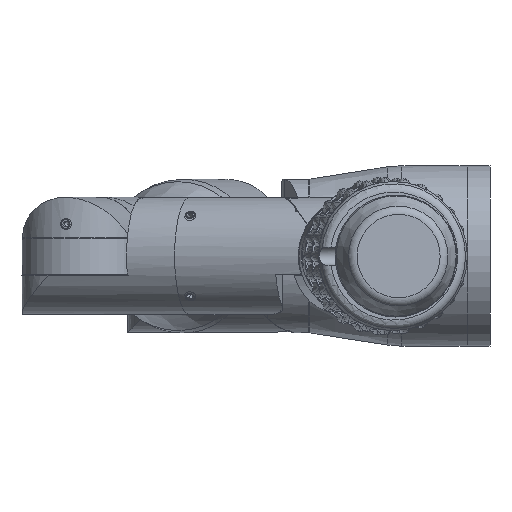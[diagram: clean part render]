
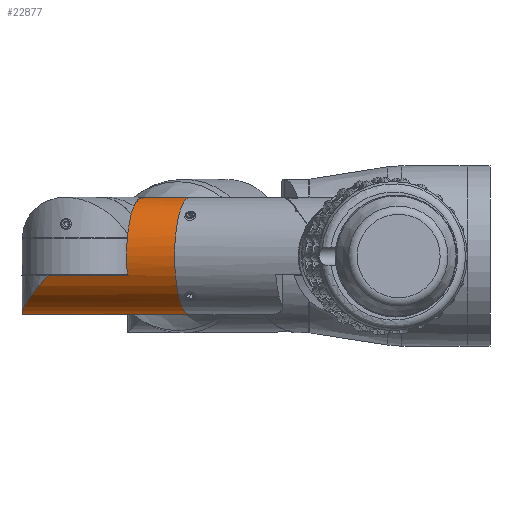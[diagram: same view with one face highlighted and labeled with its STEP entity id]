
A CAD part, left-side view. The second image highlights one B-rep face of the part: STEP entity #22877.
In plain terms, the highlighted cylindrical face has radius 13 mm (diameter 26 mm), a full revolution.
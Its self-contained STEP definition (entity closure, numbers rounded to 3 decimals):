
#419=ELLIPSE('',#24782,18.385,13.);
#420=ELLIPSE('',#24784,18.385,13.);
#421=ELLIPSE('',#24786,20.224,13.);
#422=ELLIPSE('',#24789,15.011,13.);
#615=B_SPLINE_CURVE_WITH_KNOTS('',3,(#35310,#35311,#35312,#35313,#35314,
#35315,#35316,#35317,#35318,#35319,#35320,#35321,#35322,#35323),
 .UNSPECIFIED.,.F.,.F.,(4,2,2,2,2,2,4),(1.188,1.335,
1.47,1.604,1.739,1.873,1.876),
 .UNSPECIFIED.);
#616=B_SPLINE_CURVE_WITH_KNOTS('',3,(#35330,#35331,#35332,#35333,#35334,
#35335),.UNSPECIFIED.,.F.,.F.,(4,2,4),(1.886,2.039,
2.091),.UNSPECIFIED.);
#2358=FACE_OUTER_BOUND('',#3717,.T.);
#3717=EDGE_LOOP('',(#16586,#16587,#16588,#16589,#16590,#16591,#16592,#16593,
#16594,#16595,#16596,#16597,#16598));
#5268=LINE('',#35279,#6787);
#5272=LINE('',#35293,#6791);
#5280=LINE('',#35351,#6799);
#6787=VECTOR('',#28420,10.);
#6791=VECTOR('',#28430,10.);
#6799=VECTOR('',#28480,13.);
#8175=CIRCLE('',#24677,13.);
#8221=CIRCLE('',#24792,13.);
#8222=CIRCLE('',#24793,13.);
#9548=VERTEX_POINT('',#35039);
#9612=VERTEX_POINT('',#35277);
#9613=VERTEX_POINT('',#35278);
#9619=VERTEX_POINT('',#35290);
#9620=VERTEX_POINT('',#35292);
#9622=VERTEX_POINT('',#35300);
#9623=VERTEX_POINT('',#35304);
#9624=VERTEX_POINT('',#35308);
#9625=VERTEX_POINT('',#35325);
#9626=VERTEX_POINT('',#35329);
#9627=VERTEX_POINT('',#35338);
#12126=EDGE_CURVE('',#9548,#9548,#8175,.T.);
#12242=EDGE_CURVE('',#9612,#9613,#5268,.T.);
#12249=EDGE_CURVE('',#9620,#9619,#5272,.T.);
#12252=EDGE_CURVE('',#9613,#9620,#419,.T.);
#12254=EDGE_CURVE('',#9619,#9622,#420,.T.);
#12256=EDGE_CURVE('',#9622,#9623,#421,.T.);
#12258=EDGE_CURVE('',#9624,#9623,#615,.T.);
#12260=EDGE_CURVE('',#9624,#9625,#422,.T.);
#12261=EDGE_CURVE('',#9626,#9625,#616,.T.);
#12263=EDGE_CURVE('',#9627,#9612,#8221,.T.);
#12264=EDGE_CURVE('',#9626,#9627,#8222,.T.);
#12269=EDGE_CURVE('',#9548,#9627,#5280,.T.);
#16586=ORIENTED_EDGE('',*,*,#12126,.F.);
#16587=ORIENTED_EDGE('',*,*,#12269,.T.);
#16588=ORIENTED_EDGE('',*,*,#12263,.T.);
#16589=ORIENTED_EDGE('',*,*,#12242,.T.);
#16590=ORIENTED_EDGE('',*,*,#12252,.T.);
#16591=ORIENTED_EDGE('',*,*,#12249,.T.);
#16592=ORIENTED_EDGE('',*,*,#12254,.T.);
#16593=ORIENTED_EDGE('',*,*,#12256,.T.);
#16594=ORIENTED_EDGE('',*,*,#12258,.F.);
#16595=ORIENTED_EDGE('',*,*,#12260,.T.);
#16596=ORIENTED_EDGE('',*,*,#12261,.F.);
#16597=ORIENTED_EDGE('',*,*,#12264,.T.);
#16598=ORIENTED_EDGE('',*,*,#12269,.F.);
#22088=CYLINDRICAL_SURFACE('',#24799,13.);
#22877=ADVANCED_FACE('',(#2358),#22088,.T.);
#24677=AXIS2_PLACEMENT_3D('',#35040,#28147,#28148);
#24782=AXIS2_PLACEMENT_3D('',#35298,#28437,#28438);
#24784=AXIS2_PLACEMENT_3D('',#35302,#28442,#28443);
#24786=AXIS2_PLACEMENT_3D('',#35306,#28447,#28448);
#24789=AXIS2_PLACEMENT_3D('',#35327,#28455,#28456);
#24792=AXIS2_PLACEMENT_3D('',#35339,#28462,#28463);
#24793=AXIS2_PLACEMENT_3D('',#35340,#28464,#28465);
#24799=AXIS2_PLACEMENT_3D('',#35350,#28478,#28479);
#28147=DIRECTION('center_axis',(0.,1.,0.));
#28148=DIRECTION('ref_axis',(1.,0.,0.));
#28420=DIRECTION('',(0.,-1.,0.));
#28430=DIRECTION('',(0.,1.,0.));
#28437=DIRECTION('center_axis',(0.,0.707,0.707));
#28438=DIRECTION('ref_axis',(0.,0.707,-0.707));
#28442=DIRECTION('center_axis',(0.,-0.707,0.707));
#28443=DIRECTION('ref_axis',(0.,-0.707,-0.707));
#28447=DIRECTION('center_axis',(-0.766,-0.643,0.));
#28448=DIRECTION('ref_axis',(0.643,-0.766,0.));
#28455=DIRECTION('center_axis',(-0.5,0.866,0.));
#28456=DIRECTION('ref_axis',(0.866,0.5,0.));
#28462=DIRECTION('center_axis',(0.,1.,0.));
#28463=DIRECTION('ref_axis',(1.,0.,0.));
#28464=DIRECTION('center_axis',(0.,1.,0.));
#28465=DIRECTION('ref_axis',(1.,0.,0.));
#28478=DIRECTION('center_axis',(0.,1.,0.));
#28479=DIRECTION('ref_axis',(1.,0.,0.));
#28480=DIRECTION('',(0.,-1.,0.));
#35039=CARTESIAN_POINT('',(-13.,38.,0.));
#35040=CARTESIAN_POINT('Origin',(0.,38.,0.));
#35277=CARTESIAN_POINT('',(-12.303,27.,4.2));
#35278=CARTESIAN_POINT('',(-12.303,8.8,4.2));
#35279=CARTESIAN_POINT('',(-12.303,0.,4.2));
#35290=CARTESIAN_POINT('',(12.303,17.2,4.2));
#35292=CARTESIAN_POINT('',(12.303,8.8,4.2));
#35293=CARTESIAN_POINT('',(12.303,0.,4.2));
#35298=CARTESIAN_POINT('Origin',(0.,13.,0.));
#35300=CARTESIAN_POINT('',(9.959,21.356,8.356));
#35302=CARTESIAN_POINT('Origin',(0.,13.,0.));
#35304=CARTESIAN_POINT('',(5.685,26.45,11.691));
#35306=CARTESIAN_POINT('Origin',(0.,33.224,0.));
#35308=CARTESIAN_POINT('',(6.749,32.485,11.111));
#35310=CARTESIAN_POINT('Ctrl Pts',(6.749,32.485,11.111));
#35311=CARTESIAN_POINT('Ctrl Pts',(6.347,32.253,11.355));
#35312=CARTESIAN_POINT('Ctrl Pts',(5.971,31.937,11.552));
#35313=CARTESIAN_POINT('Ctrl Pts',(5.397,31.245,11.831));
#35314=CARTESIAN_POINT('Ctrl Pts',(5.153,30.837,11.936));
#35315=CARTESIAN_POINT('Ctrl Pts',(4.829,29.948,12.071));
#35316=CARTESIAN_POINT('Ctrl Pts',(4.749,29.469,12.102));
#35317=CARTESIAN_POINT('Ctrl Pts',(4.749,28.573,12.102));
#35318=CARTESIAN_POINT('Ctrl Pts',(4.829,28.093,12.071));
#35319=CARTESIAN_POINT('Ctrl Pts',(5.153,27.205,11.936));
#35320=CARTESIAN_POINT('Ctrl Pts',(5.397,26.796,11.831));
#35321=CARTESIAN_POINT('Ctrl Pts',(5.675,26.461,11.696));
#35322=CARTESIAN_POINT('Ctrl Pts',(5.68,26.455,11.694));
#35323=CARTESIAN_POINT('Ctrl Pts',(5.685,26.45,11.691));
#35325=CARTESIAN_POINT('',(-1.823,27.536,-12.872));
#35327=CARTESIAN_POINT('Origin',(0.,28.588,0.));
#35329=CARTESIAN_POINT('',(-3.823,27.,-12.425));
#35330=CARTESIAN_POINT('Ctrl Pts',(-3.823,27.,-12.425));
#35331=CARTESIAN_POINT('Ctrl Pts',(-3.334,27.,-12.575));
#35332=CARTESIAN_POINT('Ctrl Pts',(-2.803,27.096,-12.704));
#35333=CARTESIAN_POINT('Ctrl Pts',(-2.142,27.366,-12.823));
#35334=CARTESIAN_POINT('Ctrl Pts',(-1.979,27.446,-12.849));
#35335=CARTESIAN_POINT('Ctrl Pts',(-1.823,27.536,-12.872));
#35338=CARTESIAN_POINT('',(-13.,27.,0.));
#35339=CARTESIAN_POINT('Origin',(0.,27.,0.));
#35340=CARTESIAN_POINT('Origin',(0.,27.,0.));
#35350=CARTESIAN_POINT('Origin',(0.,0.,0.));
#35351=CARTESIAN_POINT('',(-13.,0.,0.));
